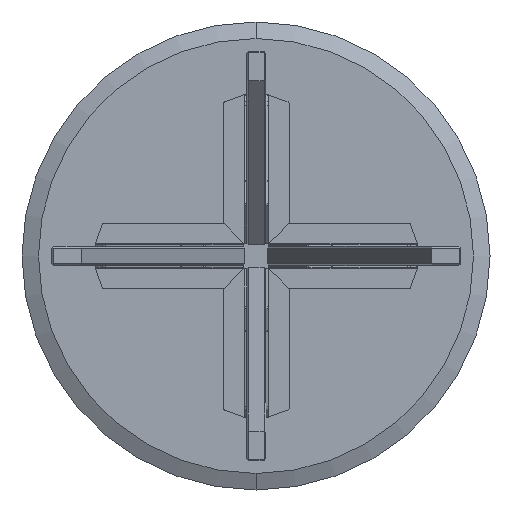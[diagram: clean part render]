
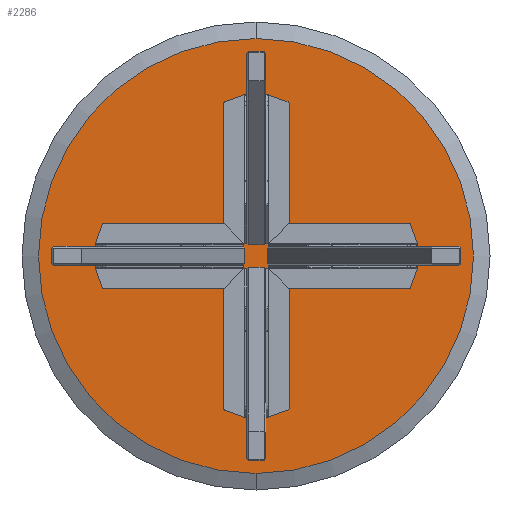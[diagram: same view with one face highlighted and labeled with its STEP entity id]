
A CAD part, front view. The second image highlights one B-rep face of the part: STEP entity #2286.
In plain terms, the highlighted planar face has unit normal (0, -1, 0).
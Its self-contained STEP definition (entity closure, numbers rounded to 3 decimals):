
#480 = DIRECTION ( 'NONE',  ( 0., -1., 0. ) ) ;
#878 = PLANE ( 'NONE',  #3181 ) ;
#1727 = AXIS2_PLACEMENT_3D ( 'NONE', #7287, #480, #2554 ) ;
#2286 = ADVANCED_FACE ( 'NONE', ( #2352 ), #878, .F. ) ;
#2298 = AXIS2_PLACEMENT_3D ( 'NONE', #9576, #7975, #8026 ) ;
#2352 = FACE_OUTER_BOUND ( 'NONE', #4577, .T. ) ;
#2554 = DIRECTION ( 'NONE',  ( 0., 0., 1. ) ) ;
#2627 = ORIENTED_EDGE ( 'NONE', *, *, #7875, .T. ) ;
#2824 = DIRECTION ( 'NONE',  ( 0., 1., 0. ) ) ;
#3181 = AXIS2_PLACEMENT_3D ( 'NONE', #9692, #2824, #5925 ) ;
#3578 = CARTESIAN_POINT ( 'NONE',  ( -0.586, 17.981, 394.977 ) ) ;
#3971 = CIRCLE ( 'NONE', #1727, 394.977 ) ;
#4577 = EDGE_LOOP ( 'NONE', ( #7161, #2627 ) ) ;
#5925 = DIRECTION ( 'NONE',  ( 0., 0., 1. ) ) ;
#7062 = CIRCLE ( 'NONE', #2298, 394.977 ) ;
#7161 = ORIENTED_EDGE ( 'NONE', *, *, #9382, .T. ) ;
#7287 = CARTESIAN_POINT ( 'NONE',  ( -0.586, 17.981, 0. ) ) ;
#7461 = VERTEX_POINT ( 'NONE', #3578 ) ;
#7875 = EDGE_CURVE ( 'NONE', #8538, #7461, #3971, .T. ) ;
#7975 = DIRECTION ( 'NONE',  ( 0., -1., 0. ) ) ;
#8026 = DIRECTION ( 'NONE',  ( 0., 0., 1. ) ) ;
#8153 = CARTESIAN_POINT ( 'NONE',  ( -0.586, 17.981, -394.977 ) ) ;
#8538 = VERTEX_POINT ( 'NONE', #8153 ) ;
#9382 = EDGE_CURVE ( 'NONE', #7461, #8538, #7062, .T. ) ;
#9576 = CARTESIAN_POINT ( 'NONE',  ( -0.586, 17.981, 0. ) ) ;
#9692 = CARTESIAN_POINT ( 'NONE',  ( -0.586, 17.981, 0. ) ) ;
